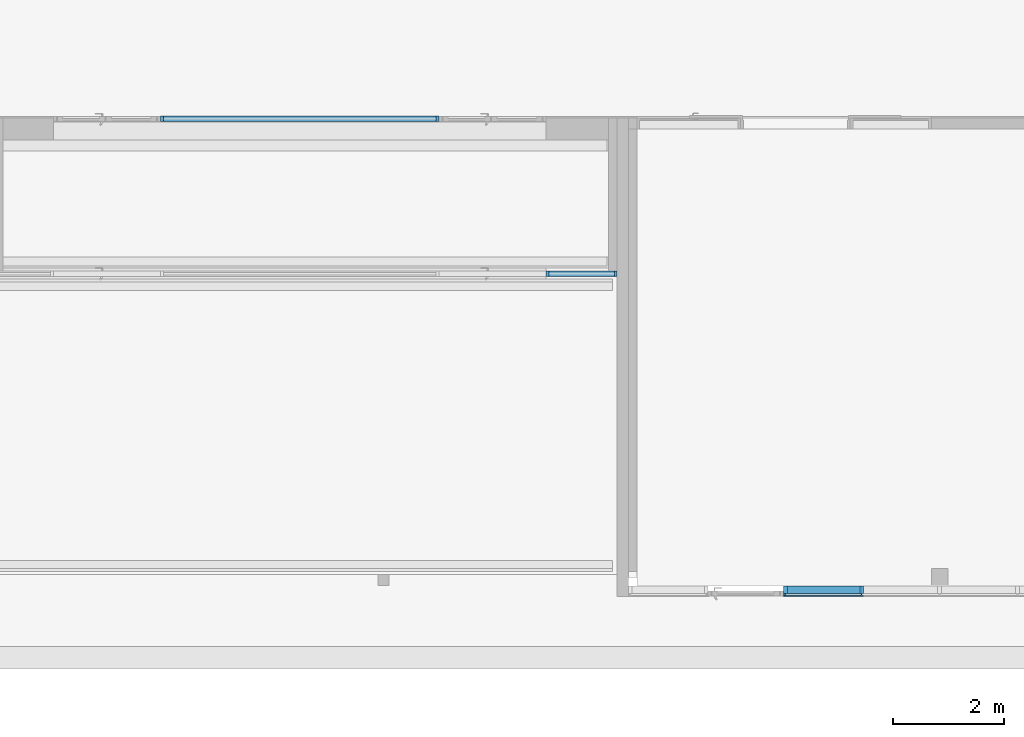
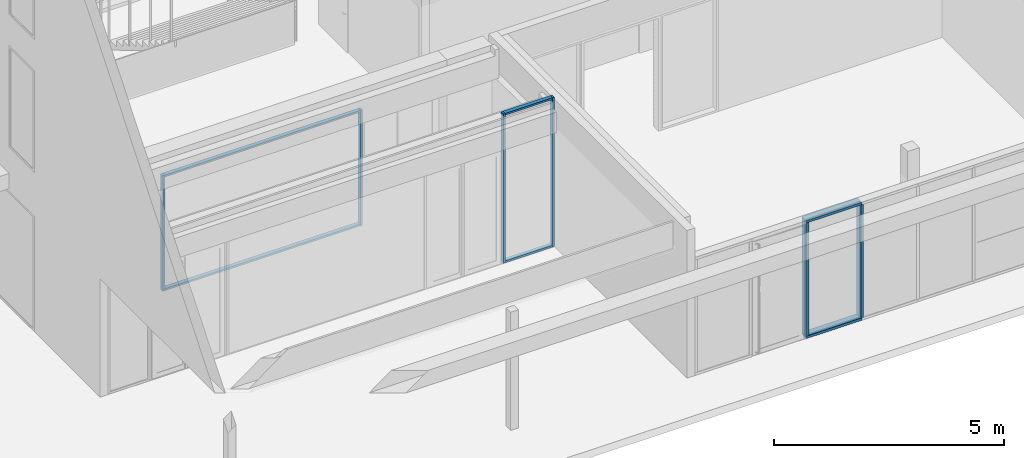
# One storey, part 20 of 240: 12 members, 3 elements without a shape of their own.
"""IFC2X3 building model written with IfcOpenShell, lengths in centimetres."""

from ifc_helpers import new_model, entity, si_unit, converted_unit, derived_unit, direction, frame, origin, origin_2d_with_axis, place, context, subcontext, project, spatial, polyline, rectangle, outline, extrude, source, transform, mapped, material, type_object, type_shapes, element, aggregate, save


model = new_model("IFC2X3")

# Units and contexts
model_context = context("Model", 3, precision=0.001, world=origin(), true_north=direction((6.12303176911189e-17, 1.0)))
body_context = subcontext(model_context, "Body", "Model", "MODEL_VIEW")
ifc_project = project(units=[si_unit("LENGTHUNIT", "METRE", prefix="CENTI"), si_unit("AREAUNIT", "SQUARE_METRE"), si_unit("VOLUMEUNIT", "CUBIC_METRE"), converted_unit("PLANEANGLEUNIT", "DEGREE", entity("IfcRatioMeasure", 0.0174532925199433), si_unit("PLANEANGLEUNIT", "RADIAN"), dimensions=[0, 0, 0, 0, 0, 0, 0]), si_unit("MASSUNIT", "GRAM", prefix="KILO"), derived_unit("MASSDENSITYUNIT", [(si_unit("MASSUNIT", "GRAM", prefix="KILO"), 1), (si_unit("LENGTHUNIT", "METRE"), -3)]), si_unit("TIMEUNIT", "SECOND"), si_unit("FREQUENCYUNIT", "HERTZ"), si_unit("THERMODYNAMICTEMPERATUREUNIT", "DEGREE_CELSIUS"), derived_unit("THERMALTRANSMITTANCEUNIT", [(si_unit("MASSUNIT", "GRAM", prefix="KILO"), 1), (si_unit("THERMODYNAMICTEMPERATUREUNIT", "KELVIN"), -1), (si_unit("TIMEUNIT", "SECOND"), -3)]), derived_unit("VOLUMETRICFLOWRATEUNIT", [(si_unit("LENGTHUNIT", "METRE"), 3), (si_unit("TIMEUNIT", "SECOND"), -1)]), si_unit("ELECTRICCURRENTUNIT", "AMPERE"), si_unit("ELECTRICVOLTAGEUNIT", "VOLT"), si_unit("POWERUNIT", "WATT"), si_unit("FORCEUNIT", "NEWTON", prefix="KILO"), si_unit("ILLUMINANCEUNIT", "LUX"), si_unit("LUMINOUSFLUXUNIT", "LUMEN"), si_unit("LUMINOUSINTENSITYUNIT", "CANDELA"), derived_unit("USERDEFINED", [(si_unit("MASSUNIT", "GRAM", prefix="KILO"), -1), (si_unit("LENGTHUNIT", "METRE"), -2), (si_unit("TIMEUNIT", "SECOND"), 3), (si_unit("LUMINOUSFLUXUNIT", "LUMEN"), 1)]), derived_unit("LINEARVELOCITYUNIT", [(si_unit("LENGTHUNIT", "METRE"), 1), (si_unit("TIMEUNIT", "SECOND"), -1)]), si_unit("PRESSUREUNIT", "PASCAL"), derived_unit("USERDEFINED", [(si_unit("LENGTHUNIT", "METRE"), -2), (si_unit("MASSUNIT", "GRAM", prefix="KILO"), 1), (si_unit("TIMEUNIT", "SECOND"), -2)])], contexts=[model_context])

# Site, building, storey
site_placement = place(None, frame((-2781.94577612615, 7442.24238424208, 0.0)))
site = spatial("IfcSite", under=ifc_project, at=site_placement, Name="Default", CompositionType="ELEMENT")
building_placement = place(site_placement, origin())
building = spatial("IfcBuilding", under=site, at=building_placement, CompositionType="ELEMENT")
storey_placement = place(building_placement, origin())
storey = spatial("IfcBuildingStorey", under=building, at=storey_placement, Name="N00 - COO", CompositionType="ELEMENT", Elevation=0.0)

# Curtain wall, members
curtain_wall_type_1 = type_object("IfcCurtainWallType", Name="Mur-rideau:07 - mur rideau trame 140 cm", PredefinedType="NOTDEFINED")
curtain_wall_1_placement = place(building_placement, origin())
curtain_wall_1 = element("IfcCurtainWall", 1, at=curtain_wall_1_placement, inside=storey, type_object=curtain_wall_type_1, Name="Mur-rideau:07 - mur rideau trame 140 cm", ObjectType="Mur-rideau:07 - mur rideau trame 140 cm")
ifc_material_1 = material(Name="Aluminium")
member_type_1 = type_object("IfcMemberType", Name="150 x 25mm Détails", PredefinedType="MEMBER")
shared_shape_1 = source(origin(), body_context, "Body", "SweptSolid", [
    extrude(outline(polyline([(-5.66666666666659, -3.25), (-3.66666666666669, -3.25), (-3.66666666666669, -0.868749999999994), (-0.166666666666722, -0.868749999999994), (-0.166666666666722, -3.25000000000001), (13.3333333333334, -3.24999999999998), (13.3333333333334, 3.25000000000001), (-0.166666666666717, 3.25000000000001), (-0.166666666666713, 0.868749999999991), (-3.66666666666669, 0.868749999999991), (-3.66666666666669, 3.24999999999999), (-5.66666666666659, 3.24999999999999), (-5.66666666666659, -3.25)])), frame((-3.24999999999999, -1.96666666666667, -299.5), z_axis=(0.0, 0.0, 1.0), x_axis=(0.0, -1.0, 0.0)), (0.0, 0.0, 1.0), 299.5),
])
type_shapes(member_type_1, [shared_shape_1])
member_1_placement = place(building_placement, frame((-3350.29988284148, -3046.51349958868, 306.0), z_axis=(0.0, 0.0, 1.0), x_axis=(-1.0, 0.0, 0.0)))
member_1 = element("IfcMember", 2, at=member_1_placement, type_object=member_type_1, material=ifc_material_1, Name="Meneau rectangulaire:150 x 25mm Détails", ObjectType="Meneau rectangulaire:150 x 25mm Détails", context=body_context, shape_type="MappedRepresentation", body=[
    mapped(shared_shape_1, transform((0.0, 0.0, 0.0), scale=1.0)),
])
member_type_2 = type_object("IfcMemberType", Name="150 x 25mm Détails", PredefinedType="MEMBER")
shared_shape_2 = source(origin(), body_context, "Body", "SweptSolid", [
    extrude(outline(polyline([(-5.6666666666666, -3.24999999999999), (-3.66666666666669, -3.24999999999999), (-3.66666666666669, -0.868749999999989), (-0.166666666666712, -0.868749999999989), (-0.166666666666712, -3.25000000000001), (13.3333333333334, -3.25000000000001), (13.3333333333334, 3.24999999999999), (-0.16666666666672, 3.24999999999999), (-0.16666666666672, 0.868749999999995), (-3.66666666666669, 0.868749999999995), (-3.66666666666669, 3.25), (-5.6666666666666, 3.25), (-5.6666666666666, -3.24999999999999)])), frame((-3.24999999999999, -1.96666666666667, -140.0), z_axis=(0.0, 0.0, 1.0), x_axis=(0.0, -1.0, 0.0)), (0.0, 0.0, 1.0), 140.000000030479),
])
type_shapes(member_type_2, [shared_shape_2])
member_2_placement = place(building_placement, frame((-3210.299882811, -3046.51349958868, 312.5), z_axis=(1.0, 0.0, 0.0), x_axis=(0.0, 0.0, 1.0)))
member_2 = element("IfcMember", 3, at=member_2_placement, type_object=member_type_2, material=ifc_material_1, Name="Meneau rectangulaire:150 x 25mm Détails", ObjectType="Meneau rectangulaire:150 x 25mm Détails", context=body_context, shape_type="MappedRepresentation", body=[
    mapped(shared_shape_2, transform((0.0, 0.0, 0.0), scale=1.0)),
])
member_type_3 = type_object("IfcMemberType", Name="150 x 25mm Détails", PredefinedType="MEMBER")
shared_shape_3 = source(origin(), body_context, "Body", "SweptSolid", [
    extrude(outline(polyline([(-5.66666666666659, -3.25), (-3.66666666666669, -3.25), (-3.66666666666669, -0.868749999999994), (-0.166666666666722, -0.868749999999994), (-0.166666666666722, -3.25000000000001), (13.3333333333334, -3.24999999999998), (13.3333333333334, 3.25000000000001), (-0.166666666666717, 3.25000000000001), (-0.166666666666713, 0.868749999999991), (-3.66666666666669, 0.868749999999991), (-3.66666666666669, 3.24999999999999), (-5.66666666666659, 3.24999999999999), (-5.66666666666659, -3.25)])), frame((-3.24999999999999, -1.96666666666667, -140.0), z_axis=(0.0, 0.0, 1.0), x_axis=(0.0, -1.0, 0.0)), (0.0, 0.0, 1.0), 140.000000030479),
])
type_shapes(member_type_3, [shared_shape_3])
member_3_placement = place(building_placement, frame((-3350.29988284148, -3046.51349958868, 0.0), z_axis=(-1.0, 0.0, 0.0), x_axis=(0.0, 0.0, -1.0)))
member_3 = element("IfcMember", 4, at=member_3_placement, type_object=member_type_3, material=ifc_material_1, Name="Meneau rectangulaire:150 x 25mm Détails", ObjectType="Meneau rectangulaire:150 x 25mm Détails", context=body_context, shape_type="MappedRepresentation", body=[
    mapped(shared_shape_3, transform((0.0, 0.0, 0.0), scale=1.0)),
])
member_type_4 = type_object("IfcMemberType", Name="150 x 25mm Détails", PredefinedType="MEMBER")
shared_shape_4 = source(origin(), body_context, "Body", "SweptSolid", [
    extrude(outline(polyline([(-5.6666666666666, -3.24999999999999), (-3.66666666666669, -3.24999999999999), (-3.66666666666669, -0.86874999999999), (-0.166666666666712, -0.86874999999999), (-0.166666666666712, -3.25000000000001), (13.3333333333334, -3.25000000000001), (13.3333333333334, 3.24999999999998), (-0.16666666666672, 3.24999999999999), (-0.16666666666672, 0.868749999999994), (-3.66666666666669, 0.868749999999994), (-3.66666666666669, 3.25), (-5.6666666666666, 3.25), (-5.6666666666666, -3.24999999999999)])), frame((0.0, -1.96666666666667, -299.5), z_axis=(0.0, 0.0, 1.0), x_axis=(0.0, -1.0, 0.0)), (0.0, 0.0, 1.0), 299.5),
])
type_shapes(member_type_4, [shared_shape_4])
member_4_placement = place(building_placement, frame((-3210.299882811, -3046.51349958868, 6.49999999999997), z_axis=(0.0, 0.0, -1.0), x_axis=(1.0, 0.0, 0.0)))
member_4 = element("IfcMember", 5, at=member_4_placement, type_object=member_type_4, material=ifc_material_1, Name="Meneau rectangulaire:150 x 25mm Détails", ObjectType="Meneau rectangulaire:150 x 25mm Détails", context=body_context, shape_type="MappedRepresentation", body=[
    mapped(shared_shape_4, transform((0.0, 0.0, 0.0), scale=1.0)),
])
aggregate(curtain_wall_1, [member_3, member_1, member_2, member_4])

curtain_wall_type_2 = type_object("IfcCurtainWallType", Name="Mur-rideau:07 - mur rideau vitrage sans recoupement 10cm", PredefinedType="NOTDEFINED")
curtain_wall_2_placement = place(storey_placement, origin())
curtain_wall_2 = element("IfcCurtainWall", 6, at=curtain_wall_2_placement, inside=storey, type_object=curtain_wall_type_2, Name="Mur-rideau:07 - mur rideau vitrage sans recoupement 10cm", ObjectType="Mur-rideau:07 - mur rideau vitrage sans recoupement 10cm")
ifc_material_2 = material(Name="Plastique, blanc opaque")
member_type_5 = type_object("IfcMemberType", Name="100 x 50mm", PredefinedType="MEMBER")
shared_shape_5 = source(origin(), body_context, "Body", "SweptSolid", [
    extrude(rectangle(XDim=10.0, YDim=5.0, at=origin_2d_with_axis()), frame((-2.5, 0.0, -306.0), z_axis=(0.0, 0.0, 1.0), x_axis=(0.0, -1.0, 0.0)), (0.0, 0.0, 1.0), 306.0),
])
type_shapes(member_type_5, [shared_shape_5])
member_5_placement = place(storey_placement, frame((-4469.99987968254, -2192.01654856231, 0.0), z_axis=(0.0, 0.0, -1.0), x_axis=(-1.0, 0.0, 0.0)))
member_5 = element("IfcMember", 7, at=member_5_placement, type_object=member_type_5, material=ifc_material_2, Name="Meneau rectangulaire:100 x 50mm", ObjectType="Meneau rectangulaire:100 x 50mm", context=body_context, shape_type="MappedRepresentation", body=[
    mapped(shared_shape_5, transform((0.0, 0.0, 0.0), scale=1.0)),
])
member_type_6 = type_object("IfcMemberType", Name="100 x 50mm", PredefinedType="MEMBER")
shared_shape_6 = source(origin(), body_context, "Body", "SweptSolid", [
    extrude(rectangle(XDim=10.0, YDim=5.0, at=origin_2d_with_axis()), frame((-2.5, 0.0, -306.0), z_axis=(0.0, 0.0, 1.0), x_axis=(0.0, -1.0, 0.0)), (0.0, 0.0, 1.0), 306.0),
])
type_shapes(member_type_6, [shared_shape_6])
member_6_placement = place(storey_placement, frame((-3969.99987968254, -2192.01654856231, 306.0)))
member_6 = element("IfcMember", 8, at=member_6_placement, type_object=member_type_6, material=ifc_material_2, Name="Meneau rectangulaire:100 x 50mm", ObjectType="Meneau rectangulaire:100 x 50mm", context=body_context, shape_type="MappedRepresentation", body=[
    mapped(shared_shape_6, transform((0.0, 0.0, 0.0), scale=1.0)),
])
member_type_7 = type_object("IfcMemberType", Name="100 x 50mm", PredefinedType="MEMBER")
shared_shape_7 = source(origin(), body_context, "Body", "SweptSolid", [
    extrude(rectangle(XDim=10.0, YDim=5.0, at=origin_2d_with_axis()), frame((-2.5, 0.0, -490.0), z_axis=(0.0, 0.0, 1.0), x_axis=(0.0, -1.0, 0.0)), (0.0, 0.0, 1.0), 490.0),
])
type_shapes(member_type_7, [shared_shape_7])
member_7_placement = place(storey_placement, frame((-4464.99987968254, -2192.01654856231, 306.0), z_axis=(-1.0, 0.0, 0.0), x_axis=(0.0, 0.0, 1.0)))
member_7 = element("IfcMember", 9, at=member_7_placement, type_object=member_type_7, material=ifc_material_2, Name="Meneau rectangulaire:100 x 50mm", ObjectType="Meneau rectangulaire:100 x 50mm", context=body_context, shape_type="MappedRepresentation", body=[
    mapped(shared_shape_7, transform((0.0, 0.0, 0.0), scale=1.0)),
])
member_type_8 = type_object("IfcMemberType", Name="100 x 50mm", PredefinedType="MEMBER")
shared_shape_8 = source(origin(), body_context, "Body", "SweptSolid", [
    extrude(rectangle(XDim=10.0, YDim=5.0, at=origin_2d_with_axis()), frame((-2.5, 0.0, -490.0), z_axis=(0.0, 0.0, 1.0), x_axis=(0.0, -1.0, 0.0)), (0.0, 0.0, 1.0), 490.0),
])
type_shapes(member_type_8, [shared_shape_8])
member_8_placement = place(storey_placement, frame((-3974.99987968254, -2192.01654856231, 0.0), z_axis=(1.0, 0.0, 0.0), x_axis=(0.0, 0.0, -1.0)))
member_8 = element("IfcMember", 10, at=member_8_placement, type_object=member_type_8, material=ifc_material_2, Name="Meneau rectangulaire:100 x 50mm", ObjectType="Meneau rectangulaire:100 x 50mm", context=body_context, shape_type="MappedRepresentation", body=[
    mapped(shared_shape_8, transform((0.0, 0.0, 0.0), scale=1.0)),
])
aggregate(curtain_wall_2, [member_7, member_8, member_5, member_6])

curtain_wall_3_placement = place(building_placement, origin())
curtain_wall_3 = element("IfcCurtainWall", 11, at=curtain_wall_3_placement, inside=storey, type_object=curtain_wall_type_2, Name="Mur-rideau:07 - mur rideau vitrage sans recoupement 10cm", ObjectType="Mur-rideau:07 - mur rideau vitrage sans recoupement 10cm")
member_type_9 = type_object("IfcMemberType", Name="100 x 50mm", PredefinedType="MEMBER")
shared_shape_9 = source(origin(), body_context, "Body", "SweptSolid", [
    extrude(rectangle(XDim=10.0, YDim=5.0, at=origin_2d_with_axis()), frame((-2.5, 0.0, -396.0), z_axis=(0.0, 0.0, 1.0), x_axis=(0.0, -1.0, 0.0)), (0.0, 0.0, 1.0), 396.0),
])
type_shapes(member_type_9, [shared_shape_9])
member_9_placement = place(building_placement, frame((-3777.26283441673, -2470.15656731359, 0.0), z_axis=(0.0, 0.0, -1.0), x_axis=(-1.0, 0.0, 0.0)))
member_9 = element("IfcMember", 12, at=member_9_placement, type_object=member_type_9, material=ifc_material_2, Name="Meneau rectangulaire:100 x 50mm", ObjectType="Meneau rectangulaire:100 x 50mm", context=body_context, shape_type="MappedRepresentation", body=[
    mapped(shared_shape_9, transform((0.0, 0.0, 0.0), scale=1.0)),
])
member_type_10 = type_object("IfcMemberType", Name="100 x 50mm", PredefinedType="MEMBER")
shared_shape_10 = source(origin(), body_context, "Body", "SweptSolid", [
    extrude(rectangle(XDim=10.0, YDim=5.0, at=origin_2d_with_axis()), frame((-2.5, 0.0, -396.0), z_axis=(0.0, 0.0, 1.0), x_axis=(0.0, -1.0, 0.0)), (0.0, 0.0, 1.0), 396.0),
])
type_shapes(member_type_10, [shared_shape_10])
member_10_placement = place(building_placement, frame((-3649.49987968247, -2470.15656731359, 396.0)))
member_10 = element("IfcMember", 13, at=member_10_placement, type_object=member_type_10, material=ifc_material_2, Name="Meneau rectangulaire:100 x 50mm", ObjectType="Meneau rectangulaire:100 x 50mm", context=body_context, shape_type="MappedRepresentation", body=[
    mapped(shared_shape_10, transform((0.0, 0.0, 0.0), scale=1.0)),
])
member_type_11 = type_object("IfcMemberType", Name="100 x 50mm", PredefinedType="MEMBER")
shared_shape_11 = source(origin(), body_context, "Body", "SweptSolid", [
    extrude(rectangle(XDim=10.0, YDim=5.0, at=origin_2d_with_axis()), frame((-2.5, 0.0, -117.76295473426), z_axis=(0.0, 0.0, 1.0), x_axis=(0.0, -1.0, 0.0)), (0.0, 0.0, 1.0), 117.76295473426),
])
type_shapes(member_type_11, [shared_shape_11])
member_11_placement = place(building_placement, frame((-3772.26283441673, -2470.15656731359, 396.0), z_axis=(-1.0, 0.0, 0.0), x_axis=(0.0, 0.0, 1.0)))
member_11 = element("IfcMember", 14, at=member_11_placement, type_object=member_type_11, material=ifc_material_2, Name="Meneau rectangulaire:100 x 50mm", ObjectType="Meneau rectangulaire:100 x 50mm", context=body_context, shape_type="MappedRepresentation", body=[
    mapped(shared_shape_11, transform((0.0, 0.0, 0.0), scale=1.0)),
])
member_type_12 = type_object("IfcMemberType", Name="100 x 50mm", PredefinedType="MEMBER")
shared_shape_12 = source(origin(), body_context, "Body", "SweptSolid", [
    extrude(rectangle(XDim=10.0, YDim=5.0, at=origin_2d_with_axis()), frame((-2.5, 0.0, -117.76295473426), z_axis=(0.0, 0.0, 1.0), x_axis=(0.0, -1.0, 0.0)), (0.0, 0.0, 1.0), 117.76295473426),
])
type_shapes(member_type_12, [shared_shape_12])
member_12_placement = place(building_placement, frame((-3654.49987968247, -2470.15656731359, 0.0), z_axis=(1.0, 0.0, 0.0), x_axis=(0.0, 0.0, -1.0)))
member_12 = element("IfcMember", 15, at=member_12_placement, type_object=member_type_12, material=ifc_material_2, Name="Meneau rectangulaire:100 x 50mm", ObjectType="Meneau rectangulaire:100 x 50mm", context=body_context, shape_type="MappedRepresentation", body=[
    mapped(shared_shape_12, transform((0.0, 0.0, 0.0), scale=1.0)),
])
aggregate(curtain_wall_3, [member_11, member_12, member_9, member_10])

save(model, "model.ifc")
